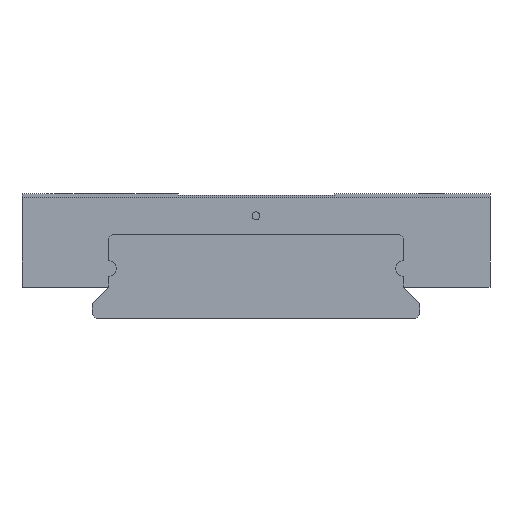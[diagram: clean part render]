
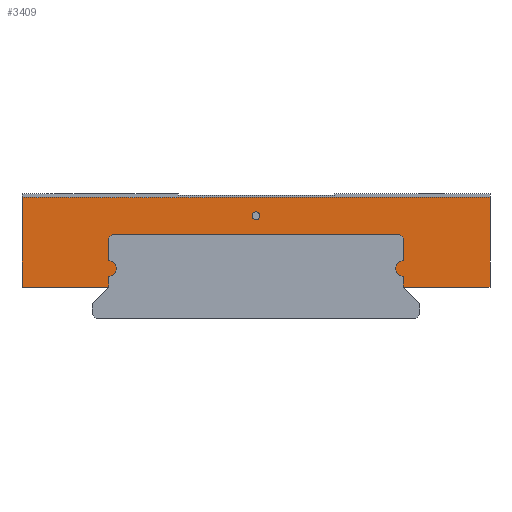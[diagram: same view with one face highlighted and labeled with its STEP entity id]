
A CAD part, left-side view. The second image highlights one B-rep face of the part: STEP entity #3409.
In plain terms, the highlighted planar face has unit normal (-1, 0, 0).
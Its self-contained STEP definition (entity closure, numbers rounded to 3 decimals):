
#2625=CARTESIAN_POINT('',(84.206,0.5,13.15));
#2626=VERTEX_POINT('',#2625);
#2627=CARTESIAN_POINT('',(84.206,0.0,13.15));
#2628=DIRECTION('',(1.0,0.0,0.0));
#2629=DIRECTION('',(0.0,-1.0,0.0));
#2630=AXIS2_PLACEMENT_3D('',#2627,#2628,#2629);
#2631=CIRCLE('',#2630,0.5);
#2632=EDGE_CURVE('',#2626,#2626,#2631,.T.);
#2898=CARTESIAN_POINT('',(84.206,30.0,15.5));
#2899=VERTEX_POINT('',#2898);
#2906=CARTESIAN_POINT('',(84.206,-30.0,15.5));
#2907=VERTEX_POINT('',#2906);
#2908=CARTESIAN_POINT('',(84.206,-30.0,15.5));
#2909=DIRECTION('',(0.0,1.0,0.0));
#2910=VECTOR('',#2909,60.0);
#2911=LINE('',#2908,#2910);
#2912=EDGE_CURVE('',#2907,#2899,#2911,.T.);
#2967=CARTESIAN_POINT('',(84.206,30.0,4.0));
#2968=VERTEX_POINT('',#2967);
#2975=CARTESIAN_POINT('',(84.206,30.0,15.5));
#2976=DIRECTION('',(0.0,0.0,-1.0));
#2977=VECTOR('',#2976,11.5);
#2978=LINE('',#2975,#2977);
#2979=EDGE_CURVE('',#2899,#2968,#2978,.T.);
#3002=CARTESIAN_POINT('',(84.206,18.9,4.0));
#3003=VERTEX_POINT('',#3002);
#3010=CARTESIAN_POINT('',(84.206,30.0,4.0));
#3011=DIRECTION('',(0.0,-1.0,0.0));
#3012=VECTOR('',#3011,11.1);
#3013=LINE('',#3010,#3012);
#3014=EDGE_CURVE('',#2968,#3003,#3013,.T.);
#3033=CARTESIAN_POINT('',(84.206,18.9,5.4));
#3034=VERTEX_POINT('',#3033);
#3041=CARTESIAN_POINT('',(84.206,18.9,4.0));
#3042=DIRECTION('',(0.0,0.0,1.0));
#3043=VECTOR('',#3042,1.4);
#3044=LINE('',#3041,#3043);
#3045=EDGE_CURVE('',#3003,#3034,#3044,.T.);
#3065=CARTESIAN_POINT('',(84.206,18.9,7.4));
#3066=VERTEX_POINT('',#3065);
#3073=CARTESIAN_POINT('',(84.206,18.9,6.4));
#3074=DIRECTION('',(-1.0,0.0,0.0));
#3075=DIRECTION('',(0.0,0.0,-1.0));
#3076=AXIS2_PLACEMENT_3D('',#3073,#3074,#3075);
#3077=CIRCLE('',#3076,1.0);
#3078=EDGE_CURVE('',#3034,#3066,#3077,.T.);
#3097=CARTESIAN_POINT('',(84.206,18.9,10.3));
#3098=VERTEX_POINT('',#3097);
#3105=CARTESIAN_POINT('',(84.206,18.9,7.4));
#3106=DIRECTION('',(0.0,0.0,1.0));
#3107=VECTOR('',#3106,2.9);
#3108=LINE('',#3105,#3107);
#3109=EDGE_CURVE('',#3066,#3098,#3108,.T.);
#3128=CARTESIAN_POINT('',(84.206,18.4,10.8));
#3129=VERTEX_POINT('',#3128);
#3136=CARTESIAN_POINT('',(84.206,18.9,10.3));
#3137=DIRECTION('',(0.0,-0.707,0.707));
#3138=VECTOR('',#3137,0.707);
#3139=LINE('',#3136,#3138);
#3140=EDGE_CURVE('',#3098,#3129,#3139,.T.);
#3159=CARTESIAN_POINT('',(84.206,-18.4,10.8));
#3160=VERTEX_POINT('',#3159);
#3167=CARTESIAN_POINT('',(84.206,18.4,10.8));
#3168=DIRECTION('',(0.0,-1.0,0.0));
#3169=VECTOR('',#3168,36.8);
#3170=LINE('',#3167,#3169);
#3171=EDGE_CURVE('',#3129,#3160,#3170,.T.);
#3190=CARTESIAN_POINT('',(84.206,-18.9,10.3));
#3191=VERTEX_POINT('',#3190);
#3198=CARTESIAN_POINT('',(84.206,-18.4,10.8));
#3199=DIRECTION('',(0.0,-0.707,-0.707));
#3200=VECTOR('',#3199,0.707);
#3201=LINE('',#3198,#3200);
#3202=EDGE_CURVE('',#3160,#3191,#3201,.T.);
#3221=CARTESIAN_POINT('',(84.206,-18.9,7.4));
#3222=VERTEX_POINT('',#3221);
#3229=CARTESIAN_POINT('',(84.206,-18.9,10.3));
#3230=DIRECTION('',(0.0,0.0,-1.0));
#3231=VECTOR('',#3230,2.9);
#3232=LINE('',#3229,#3231);
#3233=EDGE_CURVE('',#3191,#3222,#3232,.T.);
#3253=CARTESIAN_POINT('',(84.206,-18.9,5.4));
#3254=VERTEX_POINT('',#3253);
#3261=CARTESIAN_POINT('',(84.206,-18.9,6.4));
#3262=DIRECTION('',(-1.0,0.0,0.0));
#3263=DIRECTION('',(0.0,0.0,1.0));
#3264=AXIS2_PLACEMENT_3D('',#3261,#3262,#3263);
#3265=CIRCLE('',#3264,1.0);
#3266=EDGE_CURVE('',#3222,#3254,#3265,.T.);
#3285=CARTESIAN_POINT('',(84.206,-18.9,4.0));
#3286=VERTEX_POINT('',#3285);
#3293=CARTESIAN_POINT('',(84.206,-18.9,5.4));
#3294=DIRECTION('',(0.0,0.0,-1.0));
#3295=VECTOR('',#3294,1.4);
#3296=LINE('',#3293,#3295);
#3297=EDGE_CURVE('',#3254,#3286,#3296,.T.);
#3316=CARTESIAN_POINT('',(84.206,-30.0,4.0));
#3317=VERTEX_POINT('',#3316);
#3324=CARTESIAN_POINT('',(84.206,-18.9,4.0));
#3325=DIRECTION('',(0.0,-1.0,0.0));
#3326=VECTOR('',#3325,11.1);
#3327=LINE('',#3324,#3326);
#3328=EDGE_CURVE('',#3286,#3317,#3327,.T.);
#3350=CARTESIAN_POINT('',(84.206,-30.0,4.0));
#3351=DIRECTION('',(0.0,0.0,1.0));
#3352=VECTOR('',#3351,11.5);
#3353=LINE('',#3350,#3352);
#3354=EDGE_CURVE('',#3317,#2907,#3353,.T.);
#3385=CARTESIAN_POINT('',(84.206,0.0,11.119));
#3386=DIRECTION('',(1.0,0.0,0.0));
#3387=DIRECTION('',(0.0,0.0,-1.0));
#3388=AXIS2_PLACEMENT_3D('',#3385,#3386,#3387);
#3389=PLANE('',#3388);
#3390=ORIENTED_EDGE('',*,*,#3354,.T.);
#3391=ORIENTED_EDGE('',*,*,#2912,.T.);
#3392=ORIENTED_EDGE('',*,*,#2979,.T.);
#3393=ORIENTED_EDGE('',*,*,#3014,.T.);
#3394=ORIENTED_EDGE('',*,*,#3045,.T.);
#3395=ORIENTED_EDGE('',*,*,#3078,.T.);
#3396=ORIENTED_EDGE('',*,*,#3109,.T.);
#3397=ORIENTED_EDGE('',*,*,#3140,.T.);
#3398=ORIENTED_EDGE('',*,*,#3171,.T.);
#3399=ORIENTED_EDGE('',*,*,#3202,.T.);
#3400=ORIENTED_EDGE('',*,*,#3233,.T.);
#3401=ORIENTED_EDGE('',*,*,#3266,.T.);
#3402=ORIENTED_EDGE('',*,*,#3297,.T.);
#3403=ORIENTED_EDGE('',*,*,#3328,.T.);
#3404=EDGE_LOOP('',(#3390,#3391,#3392,#3393,#3394,#3395,#3396,#3397,#3398,#3399,#3400,#3401,#3402,#3403));
#3405=FACE_OUTER_BOUND('',#3404,.T.);
#3406=ORIENTED_EDGE('',*,*,#2632,.T.);
#3407=EDGE_LOOP('',(#3406));
#3408=FACE_BOUND('',#3407,.T.);
#3409=ADVANCED_FACE('',(#3405,#3408),#3389,.F.);
